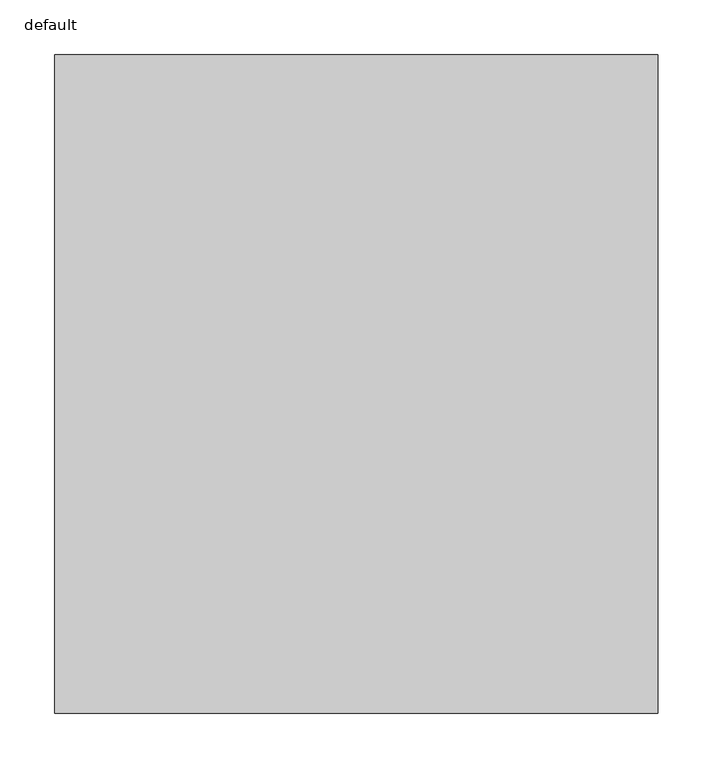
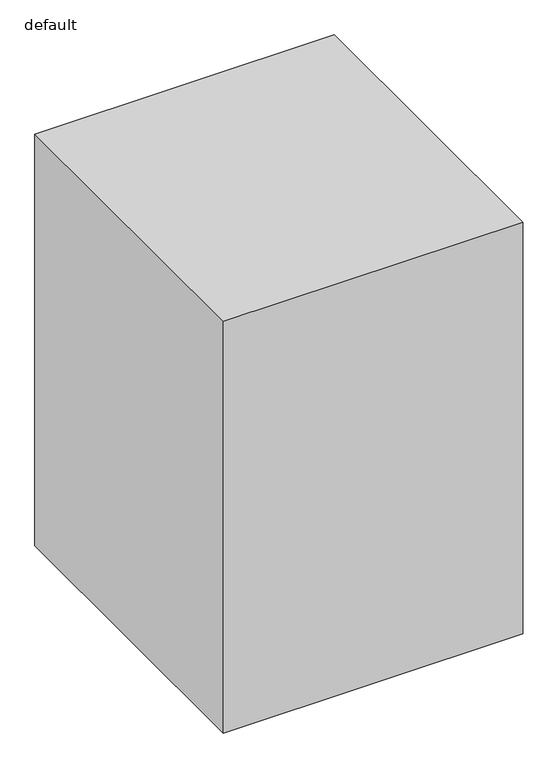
"""IFC4 building model written with IfcOpenShell, lengths in millimetres: furniture geometry, Fu_кухонный напольный модуль_LEG : default."""

import ifcopenshell
import ifcopenshell.guid

model = None  # the IFC model being written
_history = None  # IfcOwnerHistory: only IFC2X3 demands one
_inside = {}  # id of a spatial element -> (the spatial element, [elements in it])
_under = {}  # id of a project, library or spatial element -> (it, [spatial elements below it])
_declared = {}  # id of a project -> (the project, [libraries it declares])
_typed = {}  # id of a type object -> (the type object, [elements of that type])
_made_of = {}  # id of a material, layer set ... -> (it, [elements and type objects made of it])


def new_model(schema):
    """Start an empty IFC model of exactly this schema.

    Asked for "IFC4X3", IfcOpenShell would pick the latest addendum, in which some entities
    have other attributes; the version numbers below select the first issue.
    IFC2X3 requires an IfcOwnerHistory on every rooted entity: one is made here for all.
    """
    global model, _history
    if schema == "IFC4X3":
        model = ifcopenshell.file(schema_version=(4, 3, 0, 0))
    else:
        model = ifcopenshell.file(schema=schema)
    _inside.clear()
    _under.clear()
    _declared.clear()
    _typed.clear()
    _made_of.clear()
    _history = None
    if model.schema == "IFC2X3":
        org = make("IfcOrganization", Name="unknown")
        user = make(
            "IfcPersonAndOrganization",
            ThePerson=make("IfcPerson", FamilyName="unknown"),
            TheOrganization=org,
        )
        app = make(
            "IfcApplication",
            ApplicationDeveloper=org,
            Version="unknown",
            ApplicationFullName="unknown",
            ApplicationIdentifier="unknown",
        )
        _history = make(
            "IfcOwnerHistory",
            OwningUser=user,
            OwningApplication=app,
            ChangeAction="ADDED",
            CreationDate=0,
        )
    return model


def make(cls, **values):
    """One entity of the class cls with the attributes given. An attribute that is None is left unset."""
    return model.create_entity(
        cls, **{name: value for name, value in values.items() if value is not None}
    )


def rooted(cls, **values):
    """An entity with a GlobalId (a new one), such as an element, a storey or a relation."""
    return make(cls, GlobalId=ifcopenshell.guid.new(), OwnerHistory=_history, **values)


def si_unit(unit_type, name, prefix=None):
    """IfcSIUnit, for example si_unit("LENGTHUNIT", "METRE", prefix="MILLI")."""
    return make("IfcSIUnit", UnitType=unit_type, Prefix=prefix, Name=name)


def assignment(units):
    """IfcUnitAssignment: the units of a project."""
    return None if units is None else make("IfcUnitAssignment", Units=units)


def point(xyz):
    """IfcCartesianPoint."""
    return None if xyz is None else make("IfcCartesianPoint", Coordinates=xyz)


def direction(xyz):
    """IfcDirection."""
    return None if xyz is None else make("IfcDirection", DirectionRatios=xyz)


def frame(location, z_axis=None, x_axis=None):
    """IfcAxis2Placement3D, a coordinate frame: its origin and axes. An axis left out is left unset."""
    return make(
        "IfcAxis2Placement3D",
        Location=point(location),
        Axis=direction(z_axis),
        RefDirection=direction(x_axis),
    )


def origin():
    """The frame at (0, 0, 0) with its axes left unset."""
    return frame((0.0, 0.0, 0.0))


def origin_with_axes():
    """The frame at (0, 0, 0) with the z axis (0, 0, 1) and the x axis (1, 0, 0) written out."""
    return frame((0.0, 0.0, 0.0), z_axis=(0.0, 0.0, 1.0), x_axis=(1.0, 0.0, 0.0))


def place(relative_to, where):
    """IfcLocalPlacement: puts the frame where relative to a parent placement (None: the world)."""
    return make(
        "IfcLocalPlacement", PlacementRelTo=relative_to, RelativePlacement=where
    )


def context(
    kind, dimensions, precision=None, world=None, true_north=None, identifier=None
):
    """IfcGeometricRepresentationContext, for example the 3D "Model" context."""
    return make(
        "IfcGeometricRepresentationContext",
        ContextIdentifier=identifier,
        ContextType=kind,
        CoordinateSpaceDimension=dimensions,
        Precision=precision,
        WorldCoordinateSystem=world,
        TrueNorth=true_north,
    )


def project(units=None, contexts=None):
    """IfcProject with its units and contexts."""
    return rooted(
        "IfcProject",
        Name="project",
        RepresentationContexts=contexts,
        UnitsInContext=assignment(units),
    )


def spatial(cls, under=None, at=None, **own):
    """A site, building, storey or space (cls), placed at a placement, below another one or the project."""
    s = rooted(cls, ObjectPlacement=at, **own)
    if under is not None:
        _under.setdefault(under.id(), (under, []))[1].append(s)
    return s


def polyline(points):
    """IfcPolyline through the points."""
    return make("IfcPolyline", Points=[point(p) for p in points])


def outline(outer, holes=None, kind="AREA"):
    """IfcArbitraryClosedProfileDef: a profile drawn as a closed curve; with holes, ...WithVoids."""
    if holes is None:
        return make("IfcArbitraryClosedProfileDef", ProfileType=kind, OuterCurve=outer)
    return make(
        "IfcArbitraryProfileDefWithVoids",
        ProfileType=kind,
        OuterCurve=outer,
        InnerCurves=holes,
    )


def extrude(swept, where, along, depth):
    """IfcExtrudedAreaSolid: the profile swept, set in the frame where, extruded along a direction by depth."""
    return make(
        "IfcExtrudedAreaSolid",
        SweptArea=swept,
        Position=where,
        ExtrudedDirection=direction(along),
        Depth=depth,
    )


def shape(context_of_items, identifier, shape_type, items):
    """IfcShapeRepresentation: the items that make up one representation, for example the "Body"."""
    return make(
        "IfcShapeRepresentation",
        ContextOfItems=context_of_items,
        RepresentationIdentifier=identifier,
        RepresentationType=shape_type,
        Items=items,
    )


def source(mapping_origin, context_of_items, identifier, shape_type, items):
    """IfcRepresentationMap: a shape defined once, which mapped items show again and again."""
    return make(
        "IfcRepresentationMap",
        MappingOrigin=mapping_origin,
        MappedRepresentation=shape(context_of_items, identifier, shape_type, items),
    )


def transform(
    local_origin,
    x_axis=None,
    y_axis=None,
    z_axis=None,
    scale=None,
    scale2=None,
    scale3=None,
    uniform=True,
):
    """IfcCartesianTransformationOperator3D, or its non-uniform kind. x_axis, y_axis, z_axis: its Axis1, 2, 3."""
    if uniform:
        return make(
            "IfcCartesianTransformationOperator3D",
            Axis1=direction(x_axis),
            Axis2=direction(y_axis),
            LocalOrigin=point(local_origin),
            Scale=scale,
            Axis3=direction(z_axis),
        )
    return make(
        "IfcCartesianTransformationOperator3DnonUniform",
        Axis1=direction(x_axis),
        Axis2=direction(y_axis),
        LocalOrigin=point(local_origin),
        Scale=scale,
        Axis3=direction(z_axis),
        Scale2=scale2,
        Scale3=scale3,
    )


def mapped(mapping_source, mapping_target):
    """IfcMappedItem: shows the shape of a source again, moved by a transform."""
    return make(
        "IfcMappedItem", MappingSource=mapping_source, MappingTarget=mapping_target
    )


def made_of(thing, what):
    """Note that an element or type object is made of a material, layer set ...; save() writes the relation."""
    if what is not None:
        _made_of.setdefault(what.id(), (what, []))[1].append(thing)
    return thing


def element(
    cls,
    number,
    at=None,
    inside=None,
    cuts=None,
    type_object=None,
    material=None,
    context=None,
    identifier="Body",
    shape_type=None,
    held_by="IfcProductDefinitionShape",
    body=None,
    shapes=None,
    **own,
):
    """One element of the class cls, such as IfcWall. Its Tag is "e" and its number.

    at: its placement. inside: the storey or other place that contains it. cuts: it is an
    opening in that element (IfcRelVoidsElement). A single representation is given by context,
    identifier, shape_type and body (its items); several are given by shapes. held_by: the class
    of the entity that holds the representations. save() writes the other relations.
    """
    e = rooted(cls, Tag="e%d" % number, ObjectPlacement=at, **own)
    if body is not None:
        shapes = [shape(context, identifier, shape_type, body)]
    if shapes is not None:
        e.Representation = make(held_by, Representations=shapes)
    if inside is not None:
        _inside.setdefault(inside.id(), (inside, []))[1].append(e)
    if cuts is not None:
        rooted(
            "IfcRelVoidsElement", RelatingBuildingElement=cuts, RelatedOpeningElement=e
        )
    if type_object is not None:
        _typed.setdefault(type_object.id(), (type_object, []))[1].append(e)
    return made_of(e, material)


def aggregate(whole, parts):
    """IfcRelAggregates: a whole, such as a stair, and the parts it consists of."""
    return rooted("IfcRelAggregates", RelatingObject=whole, RelatedObjects=parts)


def save(model, path):
    """Write the relations noted so far, then the file.

    IfcRelAggregates (storeys below a building ...), IfcRelContainedInSpatialStructure (elements
    in a storey), IfcRelDefinesByType, IfcRelAssociatesMaterial and IfcRelDeclares: one each for
    every whole, place, type object, material and project.
    """
    for whole, parts in _under.values():
        aggregate(whole, parts)
    for where, things in _inside.values():
        rooted(
            "IfcRelContainedInSpatialStructure",
            RelatedElements=things,
            RelatingStructure=where,
        )
    for kind, things in _typed.values():
        rooted("IfcRelDefinesByType", RelatedObjects=things, RelatingType=kind)
    for what, things in _made_of.values():
        rooted("IfcRelAssociatesMaterial", RelatedObjects=things, RelatingMaterial=what)
    for by, libraries in _declared.values():
        rooted("IfcRelDeclares", RelatingContext=by, RelatedDefinitions=libraries)
    model.write(path)


def default_56ffee6e(model_context):
    return source(origin(), model_context, "Body", "SweptSolid", [
        extrude(outline(polyline([(550.0, 0.0), (0.0, 0.0), (0.0, 600.0), (550.0, 600.0), (550.0, 0.0)])), origin_with_axes(), (0.0, 0.0, 1.0), 800.0),
    ])


if __name__ == "__main__":
    model = new_model("IFC4")
    model_context = context("Model", 3, world=origin())
    ifc_project = project(units=[si_unit("LENGTHUNIT", "METRE", prefix="MILLI")], contexts=[model_context])
    site = spatial("IfcSite", under=ifc_project)
    building = spatial("IfcBuilding", under=site)
    placement = place(None, origin())
    default_shape = default_56ffee6e(model_context)
    element("IfcFurniture", 1, ObjectType="Fu_кухонный напольный модуль_LEG : default", at=placement, inside=building, context=model_context, shape_type="MappedRepresentation", body=[
        mapped(default_shape, transform((0.0, 0.0, 0.0), x_axis=(1.0, 0.0, 0.0), y_axis=(0.0, 1.0, 0.0), z_axis=(0.0, 0.0, 1.0))),
    ])
    save(model, "model.ifc")
